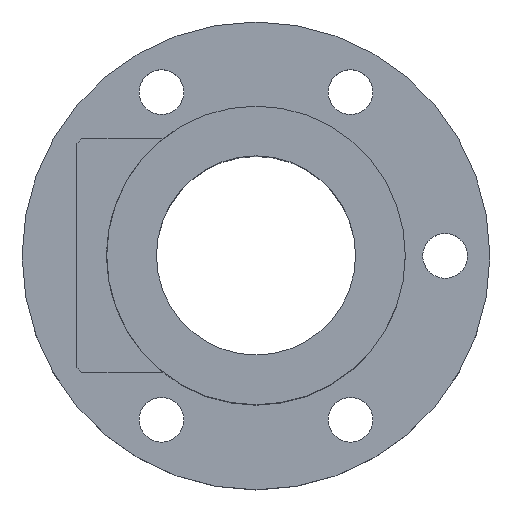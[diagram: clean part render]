
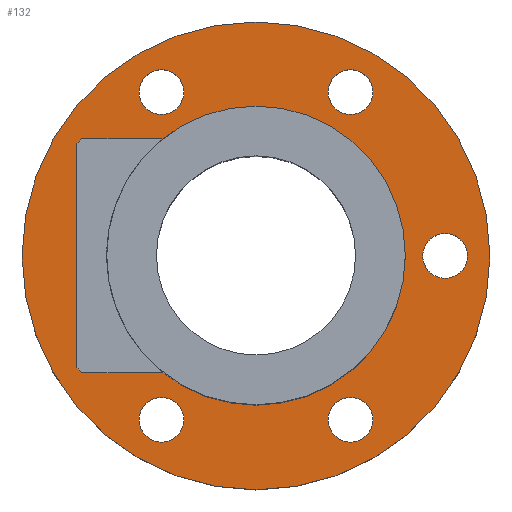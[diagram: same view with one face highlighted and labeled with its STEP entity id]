
A CAD part, top view. The second image highlights one B-rep face of the part: STEP entity #132.
In plain terms, the highlighted planar face has unit normal (0, 0, 1).
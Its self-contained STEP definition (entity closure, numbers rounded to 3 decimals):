
#97=PLANE('',#557);
#114=FACE_OUTER_BOUND('',#269,.T.);
#132=ADVANCED_FACE('',(#221,#222,#223,#114,#224,#225,#226),#97,.T.);
#221=FACE_BOUND('',#266,.T.);
#222=FACE_BOUND('',#267,.T.);
#223=FACE_BOUND('',#268,.T.);
#224=FACE_BOUND('',#270,.T.);
#225=FACE_BOUND('',#271,.T.);
#226=FACE_BOUND('',#272,.T.);
#266=EDGE_LOOP('',(#331));
#267=EDGE_LOOP('',(#332));
#268=EDGE_LOOP('',(#333));
#269=EDGE_LOOP('',(#334));
#270=EDGE_LOOP('',(#335));
#271=EDGE_LOOP('',(#336));
#272=EDGE_LOOP('',(#337));
#331=ORIENTED_EDGE('',*,*,#473,.F.);
#332=ORIENTED_EDGE('',*,*,#474,.F.);
#333=ORIENTED_EDGE('',*,*,#468,.F.);
#334=ORIENTED_EDGE('',*,*,#475,.T.);
#335=ORIENTED_EDGE('',*,*,#476,.F.);
#336=ORIENTED_EDGE('',*,*,#477,.F.);
#337=ORIENTED_EDGE('',*,*,#478,.F.);
#426=VERTEX_POINT('',#748);
#431=VERTEX_POINT('',#759);
#432=VERTEX_POINT('',#761);
#433=VERTEX_POINT('',#763);
#434=VERTEX_POINT('',#765);
#435=VERTEX_POINT('',#767);
#436=VERTEX_POINT('',#769);
#468=EDGE_CURVE('',#426,#426,#518,.T.);
#473=EDGE_CURVE('',#431,#431,#521,.T.);
#474=EDGE_CURVE('',#432,#432,#522,.T.);
#475=EDGE_CURVE('',#433,#433,#523,.T.);
#476=EDGE_CURVE('',#434,#434,#524,.T.);
#477=EDGE_CURVE('',#435,#435,#525,.T.);
#478=EDGE_CURVE('',#436,#436,#526,.T.);
#518=CIRCLE('',#547,30.);
#521=CIRCLE('',#551,4.5);
#522=CIRCLE('',#552,4.5);
#523=CIRCLE('',#553,47.);
#524=CIRCLE('',#554,4.5);
#525=CIRCLE('',#555,4.5);
#526=CIRCLE('',#556,4.5);
#547=AXIS2_PLACEMENT_3D('',#747,#608,#609);
#551=AXIS2_PLACEMENT_3D('',#758,#618,#619);
#552=AXIS2_PLACEMENT_3D('',#760,#620,#621);
#553=AXIS2_PLACEMENT_3D('',#762,#622,#623);
#554=AXIS2_PLACEMENT_3D('',#764,#624,#625);
#555=AXIS2_PLACEMENT_3D('',#766,#626,#627);
#556=AXIS2_PLACEMENT_3D('',#768,#628,#629);
#557=AXIS2_PLACEMENT_3D('',#770,#630,#631);
#608=DIRECTION('',(0.,0.,1.));
#609=DIRECTION('',(1.,0.,0.));
#618=DIRECTION('',(0.,0.,1.));
#619=DIRECTION('',(-0.5,-0.866,0.));
#620=DIRECTION('',(0.,0.,1.));
#621=DIRECTION('',(0.5,0.866,0.));
#622=DIRECTION('',(0.,0.,1.));
#623=DIRECTION('',(1.,0.,0.));
#624=DIRECTION('',(0.,0.,1.));
#625=DIRECTION('',(1.,0.,0.));
#626=DIRECTION('',(0.,0.,1.));
#627=DIRECTION('',(-1.,0.,0.));
#628=DIRECTION('',(0.,0.,1.));
#629=DIRECTION('',(0.5,-0.866,0.));
#630=DIRECTION('',(0.,0.,1.));
#631=DIRECTION('',(1.,0.,0.));
#747=CARTESIAN_POINT('',(0.,0.,16.));
#748=CARTESIAN_POINT('',(30.,0.,16.));
#758=CARTESIAN_POINT('',(19.,-32.909,16.));
#759=CARTESIAN_POINT('',(16.75,-36.806,16.));
#760=CARTESIAN_POINT('',(-19.,32.909,16.));
#761=CARTESIAN_POINT('',(-16.75,36.806,16.));
#762=CARTESIAN_POINT('',(0.,0.,16.));
#763=CARTESIAN_POINT('',(47.,0.,16.));
#764=CARTESIAN_POINT('',(19.,32.909,16.));
#765=CARTESIAN_POINT('',(23.5,32.909,16.));
#766=CARTESIAN_POINT('',(-19.,-32.909,16.));
#767=CARTESIAN_POINT('',(-23.5,-32.909,16.));
#768=CARTESIAN_POINT('',(38.,0.,16.));
#769=CARTESIAN_POINT('',(40.25,-3.897,16.));
#770=CARTESIAN_POINT('',(0.,0.,16.));
